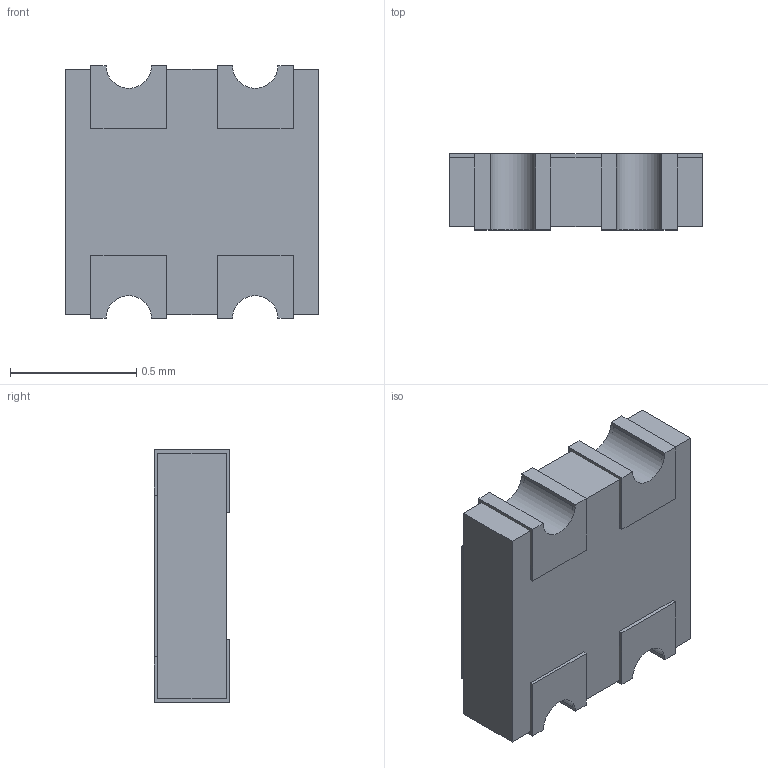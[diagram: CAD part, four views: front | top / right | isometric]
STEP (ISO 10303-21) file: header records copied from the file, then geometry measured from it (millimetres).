
FILE_DESCRIPTION(/* description */ (''),/* implementation_level */ '2;1');
FILE_NAME(/* name */ 'C:\Users\mulla\Documents\Work\SEI Models\Inventor Files\RACF\RACF102D_stp.stp',/* time_stamp */ '2019-08-03T18:49:30-04:00',/* author */ ('mulla'),/* organization */ (''),/* preprocessor_version */ 'ST-DEVELOPER v16.1',/* originating_system */ 'Autodesk Inventor 2016',/* authorisation */ '');
FILE_SCHEMA (('AUTOMOTIVE_DESIGN { 1 0 10303 214 3 1 1 }'));
Length unit declared in the file: millimetre
Products named in the file (1): RACF102D
Bounding box: 1 x 0.3 x 1 mm (x, y, z)
Volume: 0.3 mm3; surface area: 6.1 mm2
Topology: 6 solids, 6 shells, 60 faces, 144 edges, 96 vertices
Faces by surface type: plane 52, cylinder 8
Entity records: 1824 total; most frequent: CARTESIAN_POINT 301, ORIENTED_EDGE 288, DIRECTION 282, EDGE_CURVE 144, LINE 128, VECTOR 128, VERTEX_POINT 96, AXIS2_PLACEMENT_3D 77
